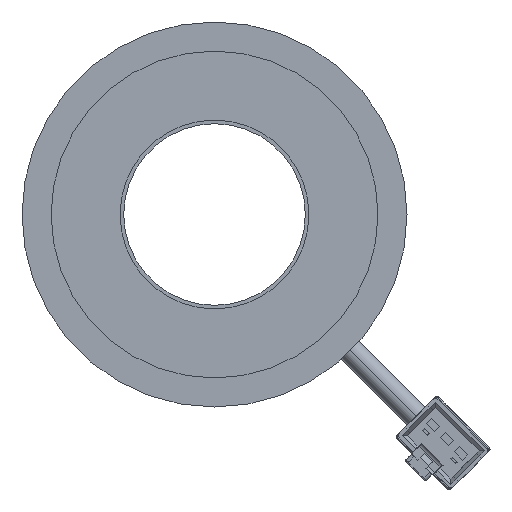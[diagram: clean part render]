
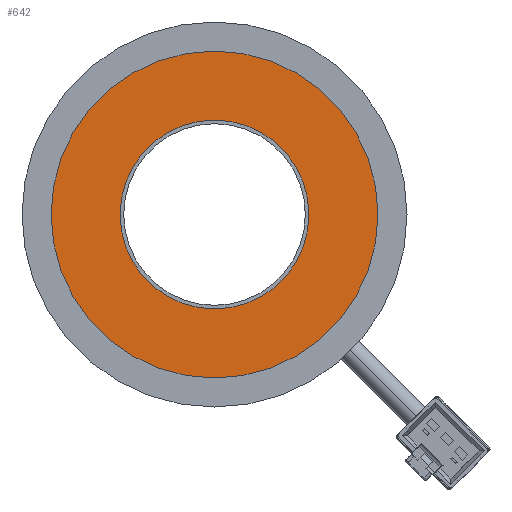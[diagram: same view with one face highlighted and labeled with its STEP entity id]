
A CAD part, front view. The second image highlights one B-rep face of the part: STEP entity #642.
In plain terms, the highlighted planar face has unit normal (0, -1, 0).
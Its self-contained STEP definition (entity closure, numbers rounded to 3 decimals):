
#1=CARTESIAN_POINT('',(0.,-10.5,0.));
#2=DIRECTION('',(0.,1.,0.));
#3=DIRECTION('',(1.,0.,0.));
#4=AXIS2_PLACEMENT_3D('',#1,#2,#3);
#6=CARTESIAN_POINT('',(0.,-10.5,0.));
#7=DIRECTION('',(0.,1.,0.));
#8=DIRECTION('',(-1.,0.,0.));
#9=AXIS2_PLACEMENT_3D('',#6,#7,#8);
#11=CARTESIAN_POINT('',(0.,-10.5,0.));
#12=DIRECTION('',(0.,-1.,0.));
#13=DIRECTION('',(1.,0.,0.));
#14=AXIS2_PLACEMENT_3D('',#11,#12,#13);
#16=CARTESIAN_POINT('',(0.,-10.5,0.));
#17=DIRECTION('',(0.,-1.,0.));
#18=DIRECTION('',(-1.,0.,0.));
#19=AXIS2_PLACEMENT_3D('',#16,#17,#18);
#489=CARTESIAN_POINT('',(22.9,-10.5,0.));
#490=CARTESIAN_POINT('',(-22.9,-10.5,0.));
#491=VERTEX_POINT('',#489);
#492=VERTEX_POINT('',#490);
#493=CARTESIAN_POINT('',(13.,-10.5,0.));
#494=CARTESIAN_POINT('',(-13.,-10.5,0.));
#495=VERTEX_POINT('',#493);
#496=VERTEX_POINT('',#494);
#625=CARTESIAN_POINT('',(0.,-10.5,0.));
#626=DIRECTION('',(0.,1.,0.));
#627=DIRECTION('',(1.,0.,0.));
#628=AXIS2_PLACEMENT_3D('',#625,#626,#627);
#629=PLANE('',#628);
#631=ORIENTED_EDGE('',*,*,#630,.T.);
#633=ORIENTED_EDGE('',*,*,#632,.T.);
#634=EDGE_LOOP('',(#631,#633));
#635=FACE_OUTER_BOUND('',#634,.F.);
#637=ORIENTED_EDGE('',*,*,#636,.T.);
#639=ORIENTED_EDGE('',*,*,#638,.T.);
#640=EDGE_LOOP('',(#637,#639));
#641=FACE_BOUND('',#640,.F.);
#5=CIRCLE('',#4,22.9);
#10=CIRCLE('',#9,22.9);
#15=CIRCLE('',#14,13.);
#20=CIRCLE('',#19,13.);
#630=EDGE_CURVE('',#491,#492,#5,.T.);
#632=EDGE_CURVE('',#492,#491,#10,.T.);
#636=EDGE_CURVE('',#495,#496,#15,.T.);
#638=EDGE_CURVE('',#496,#495,#20,.T.);
#642=ADVANCED_FACE('',(#635,#641),#629,.F.);
